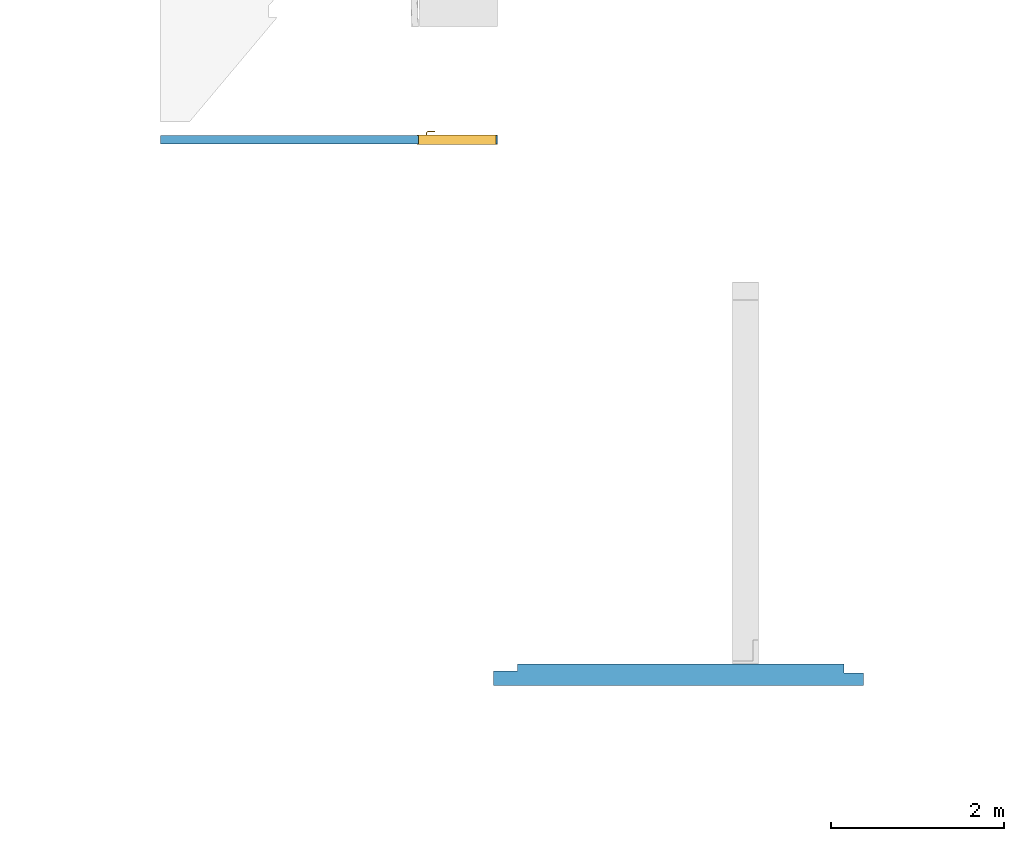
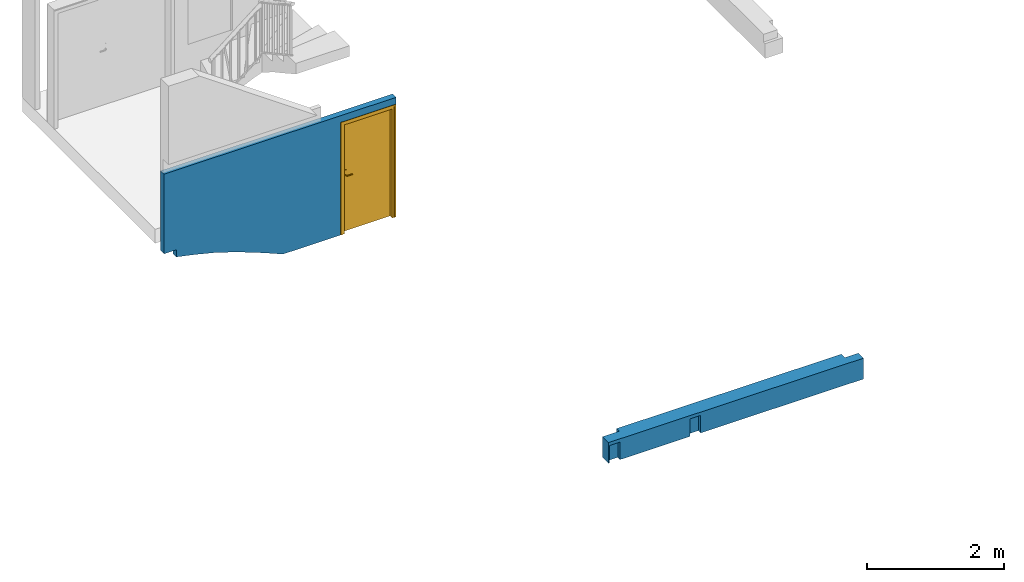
"""IFC4 building model written with IfcOpenShell, lengths in metres."""

from ifc_helpers import new_model, entity, si_unit, converted_unit, derived_unit, direction, frame, origin, place, context, subcontext, project, spatial, indexed_curve, outline, extrude, polygons, source, transform, mapped, material, material_list, layer, layer_set, constituent, constituent_set, type_object, type_shapes, element, fill, save


model = new_model("IFC4")

# Units and contexts
model_context = context("Model", 3, precision=1e-05, world=origin(), true_north=direction((6.12303176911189e-17, 1.0)))
body_context = subcontext(model_context, "Body", "Model", "MODEL_VIEW")
ifc_project = project(units=[si_unit("LENGTHUNIT", "METRE"), si_unit("AREAUNIT", "SQUARE_METRE"), si_unit("VOLUMEUNIT", "CUBIC_METRE"), converted_unit("PLANEANGLEUNIT", "DEGREE", entity("IfcRatioMeasure", 0.0174532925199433), si_unit("PLANEANGLEUNIT", "RADIAN"), dimensions=[0, 0, 0, 0, 0, 0, 0]), si_unit("MASSUNIT", "GRAM", prefix="KILO"), derived_unit("MASSDENSITYUNIT", [(si_unit("MASSUNIT", "GRAM", prefix="KILO"), 1), (si_unit("LENGTHUNIT", "METRE"), -3)]), derived_unit("MOMENTOFINERTIAUNIT", [(si_unit("LENGTHUNIT", "METRE"), 4)]), si_unit("TIMEUNIT", "SECOND"), si_unit("FREQUENCYUNIT", "HERTZ"), si_unit("THERMODYNAMICTEMPERATUREUNIT", "DEGREE_CELSIUS"), derived_unit("THERMALTRANSMITTANCEUNIT", [(si_unit("MASSUNIT", "GRAM", prefix="KILO"), 1), (si_unit("THERMODYNAMICTEMPERATUREUNIT", "KELVIN"), -1), (si_unit("TIMEUNIT", "SECOND"), -3)]), derived_unit("VOLUMETRICFLOWRATEUNIT", [(si_unit("LENGTHUNIT", "METRE"), 3), (si_unit("TIMEUNIT", "SECOND"), -1)]), si_unit("ELECTRICCURRENTUNIT", "AMPERE"), si_unit("ELECTRICVOLTAGEUNIT", "VOLT"), si_unit("POWERUNIT", "WATT"), si_unit("FORCEUNIT", "NEWTON", prefix="KILO"), si_unit("ILLUMINANCEUNIT", "LUX"), si_unit("LUMINOUSFLUXUNIT", "LUMEN"), si_unit("LUMINOUSINTENSITYUNIT", "CANDELA"), derived_unit("USERDEFINED", [(si_unit("MASSUNIT", "GRAM", prefix="KILO"), -1), (si_unit("LENGTHUNIT", "METRE"), -2), (si_unit("TIMEUNIT", "SECOND"), 3), (si_unit("LUMINOUSFLUXUNIT", "LUMEN"), 1)]), derived_unit("LINEARVELOCITYUNIT", [(si_unit("LENGTHUNIT", "METRE"), 1), (si_unit("TIMEUNIT", "SECOND"), -1)]), si_unit("PRESSUREUNIT", "PASCAL"), derived_unit("USERDEFINED", [(si_unit("LENGTHUNIT", "METRE"), -2), (si_unit("MASSUNIT", "GRAM", prefix="KILO"), 1), (si_unit("TIMEUNIT", "SECOND"), -2)]), derived_unit("LINEARFORCEUNIT", [(si_unit("MASSUNIT", "GRAM", prefix="KILO"), 1), (si_unit("LENGTHUNIT", "METRE"), 1), (si_unit("TIMEUNIT", "SECOND"), -2), (si_unit("LENGTHUNIT", "METRE"), -1)]), derived_unit("PLANARFORCEUNIT", [(si_unit("MASSUNIT", "GRAM", prefix="KILO"), 1), (si_unit("LENGTHUNIT", "METRE"), 1), (si_unit("TIMEUNIT", "SECOND"), -2), (si_unit("LENGTHUNIT", "METRE"), -2)])], contexts=[model_context])

# Site, building, storey
site_placement = place(None, origin())
site = spatial("IfcSite", under=ifc_project, at=site_placement, Name="Default", CompositionType="ELEMENT")
building_placement = place(site_placement, origin())
building = spatial("IfcBuilding", under=site, at=building_placement, Name="HOTEL CONSULAIRE BOULOGNE SUR MER", CompositionType="ELEMENT")
storey_1_placement = place(building_placement, frame((0.0, 0.0, -1.40419978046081)))
storey_1 = spatial("IfcBuildingStorey", under=building, at=storey_1_placement, Name="Demi-niveau", CompositionType="ELEMENT", Elevation=-1.40419978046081)

# Beam
ifc_material_1 = material(Name="Béton - Béton coulé sur place", Category="Béton")
beam_type = type_object("IfcBeamType", Name="Poutre rectangulaire - Béton:250X370", PredefinedType="BEAM", material=ifc_material_1)
shared_shape_1 = source(origin(), body_context, "Body", "Tessellation", [
    polygons([(2.70716782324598e-16, 1.29944055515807e-14, 5.41433564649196e-16), (2.70716782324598e-16, 1.29944055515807e-14, 0.37), (5.41433564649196e-16, 0.0700000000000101, 0.37), (8.12150346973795e-16, 0.172004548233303, 0.37), (8.12150346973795e-16, 0.172004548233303, 0.131000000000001), (8.12150346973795e-16, 0.172004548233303, 5.41433564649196e-16), (0.0125321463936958, 1.29944055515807e-14, 5.41433564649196e-16), (0.0125321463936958, 1.29944055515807e-14, 0.311000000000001), (0.192532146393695, 1.29944055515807e-14, 0.311000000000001), (0.192532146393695, 1.29944055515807e-14, 5.41433564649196e-16), (1.36753214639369, 8.66293703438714e-15, 5.41433564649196e-16), (1.36753214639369, 8.66293703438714e-15, 0.311000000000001), (1.54753214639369, 8.66293703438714e-15, 0.311), (1.54753214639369, 8.66293703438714e-15, 5.41433564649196e-16), (4.28086785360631, 0.0, 5.41433564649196e-16), (4.28086785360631, 0.0, 0.37), (4.05586785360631, 0.147004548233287, 5.41433564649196e-16), (4.28086785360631, 0.147004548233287, 5.41433564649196e-16), (1.54753214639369, 0.0668499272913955, 5.41433564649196e-16), (1.36753214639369, 0.0668499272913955, 5.41433564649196e-16), (0.192532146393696, 0.0668499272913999, 5.41433564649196e-16), (0.0125321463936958, 0.0668499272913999, 5.41433564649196e-16), (0.280867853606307, 0.172004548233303, 5.41433564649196e-16), (0.280867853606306, 0.250000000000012, 5.41433564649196e-16), (4.05586785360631, 0.249999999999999, 5.41433564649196e-16), (4.05586785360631, 0.249999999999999, 0.37), (0.280867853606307, 0.250000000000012, 0.37), (4.01586785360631, 0.249999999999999, 0.37), (4.28086785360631, 0.147004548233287, 0.37), (4.05586785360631, 0.147004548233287, 0.37), (0.280867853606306, 0.172004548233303, 0.37), (0.192532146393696, 0.0668499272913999, 0.311000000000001), (0.0125321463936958, 0.0668499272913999, 0.311000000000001), (1.54753214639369, 0.0668499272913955, 0.311000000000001), (1.36753214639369, 0.0668499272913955, 0.311000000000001)], [[[6, 1, 2, 3, 4, 5]], [[24, 23, 31, 27]], [[9, 32, 21, 10]], [[13, 34, 19, 14]], [[13, 14, 15, 16, 2, 1, 7, 8, 9, 10, 11, 12]], [[22, 21, 32, 33]], [[20, 19, 34, 35]], [[17, 18, 15, 14, 19, 20, 11, 10, 21, 22, 7, 1, 6, 23, 24, 25]], [[8, 33, 32, 9]], [[12, 35, 34, 13]], [[26, 25, 24, 27, 28]], [[17, 30, 29, 18]], [[5, 4, 31, 23, 6]], [[26, 28, 27, 31, 4, 3, 2, 16, 29, 30]], [[25, 26, 30, 17]], [[7, 22, 33, 8]], [[11, 20, 35, 12]], [[16, 15, 18, 29]]], closed=True),
])
type_shapes(beam_type, [shared_shape_1])
beam_placement = place(storey_1_placement, frame((-1.30969108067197, -20.1649143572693, -1.55023690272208)))
element("IfcBeam", 1, at=beam_placement, inside=storey_1, type_object=beam_type, material=ifc_material_1, Name="Poutre rectangulaire - Béton:250X370", ObjectType="Poutre rectangulaire - Béton:250X370", PredefinedType="BEAM", context=body_context, shape_type="MappedRepresentation", body=[
    mapped(shared_shape_1, transform((0.0, 0.0, 0.0), scale=1.0)),
])

# Wall, opening
ifc_material_2 = material(Name="Mur par défaut", Category="Divers")
ifc_layer = layer(ifc_material_2, 0.1, Name="Mur par défaut", Category="Divers")
ifc_layer_set = layer_set([ifc_layer], Name="Mur de base:Générique - Int. 100 mm")
wall_type = type_object("IfcWallType", Name="Mur de base:Générique - Int. 100 mm", PredefinedType="NOTDEFINED", material=ifc_layer_set)
wall_placement = place(storey_1_placement, frame((-5.1597731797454, -13.8483331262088, -0.986841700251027)))
wall = element("IfcWall", 2, at=wall_placement, inside=storey_1, type_object=wall_type, material=ifc_layer_set, Name="Mur de base:Générique - Int. 100 mm", ObjectType="Mur de base:Générique - Int. 100 mm", PredefinedType="NOTDEFINED", context=body_context, shape_type="Tessellation", body=[
    polygons([(3.90034967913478, 0.0499999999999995, 0.00159527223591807), (3.90034967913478, -0.0499999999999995, 0.00159527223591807), (3.88134967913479, -0.0499999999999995, 0.00159527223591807), (3.88134967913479, 0.0499999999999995, 0.00159527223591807), (3.90034967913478, -0.0499999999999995, 2.12104148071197), (2.80482516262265, -0.0499999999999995, 2.12104148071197), (2.73482516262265, -0.0499999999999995, 2.12104148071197), (-1.19722993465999e-16, -0.0499999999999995, 2.12104148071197), (-1.19722993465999e-16, -0.0499999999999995, 0.705087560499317), (0.207129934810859, -0.0499999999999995, 0.705087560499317), (0.207129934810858, -0.0499999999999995, 0.57906521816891), (0.527494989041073, -0.0499999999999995, 0.510298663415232), (0.845503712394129, -0.0499999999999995, 0.431348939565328), (1.07478742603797, -0.0499999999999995, 0.358959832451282), (1.30215540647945, -0.0499999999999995, 0.280761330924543), (1.48847332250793, -0.0499999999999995, 0.21096260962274), (1.67364308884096, -0.0499999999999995, 0.13817260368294), (1.8359789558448, -0.0499999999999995, 0.0703565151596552), (1.99791674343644, -0.0499999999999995, 0.0015952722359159), (2.98134967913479, -0.0499999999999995, 0.00159527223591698), (2.98134967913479, -0.0499999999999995, 1.98659527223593), (3.88134967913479, -0.0499999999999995, 1.98659527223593), (-3.99350005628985e-16, 0.0499999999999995, 2.12104148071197), (3.90034967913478, 0.0499999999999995, 2.12104148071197), (3.88134967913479, 0.0499999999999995, 1.98659527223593), (2.98134967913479, 0.0499999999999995, 1.98659527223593), (2.98134967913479, 0.0499999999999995, 0.00159527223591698), (1.99791674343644, 0.0499999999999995, 0.0015952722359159), (1.8359789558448, 0.0499999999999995, 0.0703565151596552), (1.673643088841, 0.0499999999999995, 0.13817260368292), (1.48847332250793, 0.0499999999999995, 0.21096260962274), (1.30215540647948, 0.0499999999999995, 0.280761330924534), (1.07478742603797, 0.0499999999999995, 0.358959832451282), (0.845503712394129, 0.0499999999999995, 0.431348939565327), (0.527494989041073, 0.0499999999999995, 0.510298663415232), (0.207129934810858, 0.0499999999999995, 0.57906521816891), (0.207129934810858, 0.0499999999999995, 0.705087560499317), (-3.99350005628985e-16, 0.0499999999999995, 0.705087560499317), (0.207129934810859, -0.0477873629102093, 0.705087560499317), (0.207129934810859, -0.0477873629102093, 0.57906521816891)], [[[2, 3, 4, 1]], [[26, 25, 22, 21]], [[10, 9, 38, 37, 39]], [[20, 19, 28, 27]], [[8, 9, 10, 11, 12, 13, 14, 15, 16, 17, 18, 19, 20, 21, 22, 3, 2, 5, 6, 7]], [[25, 26, 27, 28, 29, 30, 31, 32, 33, 34, 35, 36, 37, 38, 23, 24, 1, 4]], [[5, 2, 1, 24]], [[26, 21, 20, 27]], [[6, 5, 24, 23, 8, 7]], [[9, 8, 23, 38]], [[25, 4, 3, 22]], [[11, 10, 39, 37, 36, 40]], [[35, 12, 11, 40, 36]], [[34, 13, 12, 35]], [[34, 33, 14, 13]], [[32, 15, 14, 33]], [[32, 31, 16, 15]], [[30, 17, 16, 31]], [[30, 29, 18, 17]], [[28, 19, 18, 29]]], closed=True),
])
opening_placement = place(wall_placement, frame((2.98134967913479, -0.0500000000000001, 0.00159527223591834)))
opening = element("IfcOpeningElement", 3, at=opening_placement, cuts=wall, Name="Int. Simple:PP (0.83m x 1.95:1", ObjectType="Opening", PredefinedType="OPENING", context=body_context, shape_type="SweptSolid", body=[
    extrude(outline(indexed_curve([(0.0, 0.899999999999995), (0.0, -5.06241910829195e-30), (1.98500000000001, -5.06241910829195e-30), (1.98500000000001, 0.899999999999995), (0.0, 0.899999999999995)], self_intersect=False)), frame((0.0, 0.0, 0.0), z_axis=(0.0, 1.0, 0.0), x_axis=(0.0, 0.0, 1.0)), (0.0, 0.0, 1.0), 0.1),
])

# Storey
storey_2_placement = place(building_placement, frame((0.0, 0.0, -2.70343668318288)))
storey_2 = spatial("IfcBuildingStorey", under=building, at=storey_2_placement, Name="SS1", CompositionType="ELEMENT", Elevation=-2.70343668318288)

# Door
ifc_material_3 = material(Name="Finition Peinture - Blanc satiné", Category="Peinture")
ifc_constituent_1 = constituent(ifc_material_3, Name="Finition Peinture - Blanc satiné", Category="Matériaux")
ifc_material_4 = material(Name="Bois - Panneau de porte", Category="Bois")
ifc_constituent_2 = constituent(ifc_material_4, Name="Bois - Panneau de porte", Category="Matériaux")
ifc_material_5 = material(Name="Bois - Cadre de porte", Category="Bois")
ifc_constituent_3 = constituent(ifc_material_5, Name="Bois - Cadre de porte", Category="Matériaux")
ifc_constituent_set = constituent_set(constituents=[ifc_constituent_1, ifc_constituent_2, ifc_constituent_3], Name="MaterialConstituentSet")
ifc_material_list = material_list([ifc_material_4, ifc_material_5, ifc_material_5, ifc_material_3])
door_type = type_object("IfcDoorType", Name="Int. Simple:PP (0.83m x 1.95", OperationType="NOTDEFINED", PredefinedType="DOOR", material=ifc_material_list)
shared_shape_2 = source(origin(), body_context, "Body", "Tessellation", [
    polygons([(0.895000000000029, -0.00500000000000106, 0.870000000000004), (0.895000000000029, -0.00500000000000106, 1.08), (0.88535276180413, -0.00500000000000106, 1.08399601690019), (0.875000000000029, -0.00500000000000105, 1.08535898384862), (0.864647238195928, -0.00500000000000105, 1.08399601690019), (0.85500000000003, -0.00500000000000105, 1.08), (0.855000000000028, -0.00500000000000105, 0.870000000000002), (0.864647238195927, -0.00500000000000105, 0.866003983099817), (0.875000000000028, -0.00500000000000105, 0.86464101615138), (0.885352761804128, -0.00500000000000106, 0.866003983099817), (0.895000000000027, -1.06594733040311e-15, 0.870000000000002), (0.885352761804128, -1.06594733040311e-15, 0.866003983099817), (0.875000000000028, -1.05748743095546e-15, 0.86464101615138), (0.864647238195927, -1.05748743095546e-15, 0.866003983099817), (0.855000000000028, -1.04902753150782e-15, 0.870000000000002), (0.855000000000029, -1.04902753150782e-15, 1.08), (0.864647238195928, -1.05748743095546e-15, 1.08399601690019), (0.875000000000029, -1.05748743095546e-15, 1.08535898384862), (0.88535276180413, -1.06594733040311e-15, 1.08399601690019), (0.895000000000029, -1.06594733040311e-15, 1.08)], [[[1, 2, 3, 4, 5, 6, 7, 8, 9, 10]], [[20, 11, 12, 13, 14, 15, 16, 17, 18, 19]], [[10, 12, 11, 1]], [[9, 13, 12, 10]], [[8, 14, 13, 9]], [[8, 7, 15, 14]], [[15, 7, 6, 16]], [[5, 17, 16, 6]], [[4, 18, 17, 5]], [[3, 19, 18, 4]], [[3, 2, 20, 19]], [[11, 20, 2, 1]]], closed=True),
    polygons([(0.85500000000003, 0.0399999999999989, 1.08), (0.855000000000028, 0.0399999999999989, 0.870000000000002), (0.864647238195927, 0.0399999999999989, 0.866003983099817), (0.875000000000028, 0.0399999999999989, 0.86464101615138), (0.885352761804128, 0.0399999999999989, 0.866003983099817), (0.895000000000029, 0.0399999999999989, 0.870000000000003), (0.895000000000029, 0.0399999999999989, 1.08), (0.88535276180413, 0.0399999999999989, 1.08399601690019), (0.875000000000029, 0.0399999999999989, 1.08535898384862), (0.864647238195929, 0.0399999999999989, 1.08399601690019), (0.85500000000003, 0.0449999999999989, 1.08), (0.864647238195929, 0.0449999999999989, 1.08399601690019), (0.875000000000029, 0.0449999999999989, 1.08535898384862), (0.88535276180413, 0.0449999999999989, 1.08399601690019), (0.895000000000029, 0.0449999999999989, 1.08), (0.895000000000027, 0.0449999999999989, 0.870000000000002), (0.885352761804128, 0.0449999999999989, 0.866003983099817), (0.875000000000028, 0.0449999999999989, 0.86464101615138), (0.864647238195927, 0.0449999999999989, 0.866003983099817), (0.855000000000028, 0.0449999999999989, 0.870000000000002)], [[[6, 7, 8, 9, 10, 1, 2, 3, 4, 5]], [[13, 14, 15, 16, 17, 18, 19, 20, 11, 12]], [[10, 12, 11, 1]], [[9, 13, 12, 10]], [[8, 14, 13, 9]], [[8, 7, 15, 14]], [[16, 15, 7, 6]], [[5, 17, 16, 6]], [[4, 18, 17, 5]], [[3, 19, 18, 4]], [[3, 2, 20, 19]], [[20, 2, 1, 11]]], closed=True),
    polygons([(0.88100000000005, -0.00500000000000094, 1.00699999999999), (0.88100000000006, -0.00500000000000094, 0.992999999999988), (0.877025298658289, -0.00500000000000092, 0.99221955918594), (0.87297470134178, -0.0050000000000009, 0.992219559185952), (0.869000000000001, -0.00500000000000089, 0.993000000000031), (0.869000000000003, -0.00500000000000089, 1.007), (0.872974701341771, -0.0050000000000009, 1.00778044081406), (0.877025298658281, -0.00500000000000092, 1.00778044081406), (0.869000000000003, -0.0276803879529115, 1.007), (0.872974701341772, -0.0293267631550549, 1.00778044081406), (0.877025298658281, -0.0310045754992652, 1.00778044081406), (0.881000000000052, -0.0326509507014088, 1.007), (0.869000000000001, -0.0276803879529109, 0.993000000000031), (0.88100000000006, -0.0326509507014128, 0.992999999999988), (0.877025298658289, -0.0310045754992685, 0.99221955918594), (0.87297470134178, -0.0293267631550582, 0.992219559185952), (0.857652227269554, -0.0390281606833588, 1.007), (0.859298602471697, -0.0430028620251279, 1.00778044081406), (0.860976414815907, -0.0470534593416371, 1.00778044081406), (0.862622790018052, -0.051028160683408, 1.007), (0.857652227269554, -0.0390281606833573, 0.993000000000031), (0.862622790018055, -0.0510281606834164, 0.992999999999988), (0.860976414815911, -0.0470534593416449, 0.99221955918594), (0.859298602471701, -0.0430028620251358, 0.992219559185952), (0.774981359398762, -0.0510281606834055, 1.007), (0.774981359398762, -0.0470534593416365, 1.00778044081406), (0.774981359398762, -0.0430028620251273, 1.00778044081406), (0.774981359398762, -0.0390281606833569, 1.00699999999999), (0.774981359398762, -0.0390281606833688, 0.993000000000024), (0.774981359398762, -0.0430028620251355, 0.992219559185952), (0.774981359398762, -0.0470534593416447, 0.99221955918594), (0.774981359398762, -0.0510281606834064, 0.992999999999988), (0.822692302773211, -0.051028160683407, 1.007), (0.817139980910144, -0.045028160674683, 1.0078786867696), (0.816316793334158, -0.039028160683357, 1.007), (0.822692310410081, -0.0510281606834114, 0.992999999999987), (0.817139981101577, -0.0450281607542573, 0.992121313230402), (0.81631679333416, -0.0390281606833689, 0.993000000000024)], [[[7, 8, 1, 2, 3, 4, 5, 6]], [[17, 21, 38, 29, 28, 35]], [[1, 8, 11, 12]], [[8, 7, 10, 18, 19, 11]], [[7, 6, 9, 10]], [[13, 9, 6, 5]], [[25, 26, 27, 28, 29, 30, 31, 32]], [[4, 16, 13, 5]], [[4, 3, 15, 23, 24, 16]], [[2, 14, 15, 3]], [[12, 14, 2, 1]], [[12, 11, 19, 20]], [[10, 9, 17, 18]], [[21, 17, 9, 13]], [[13, 16, 24, 21]], [[15, 14, 22, 23]], [[20, 22, 14, 12]], [[34, 26, 33]], [[33, 26, 25]], [[33, 20, 19]], [[18, 35, 34]], [[35, 18, 17]], [[28, 27, 35]], [[34, 27, 26]], [[34, 35, 27]], [[34, 33, 19]], [[18, 34, 19]], [[37, 30, 38]], [[31, 37, 36]], [[24, 38, 21]], [[30, 29, 38]], [[31, 36, 32]], [[36, 23, 22]], [[37, 23, 36]], [[37, 24, 23]], [[37, 38, 24]], [[30, 37, 31]], [[22, 20, 33, 25, 32, 36]]], closed=True),
    polygons([(0.86900000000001, 0.0449999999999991, 0.993000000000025), (0.872974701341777, 0.0449999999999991, 0.992219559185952), (0.877025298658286, 0.0449999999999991, 0.99221955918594), (0.881000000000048, 0.044999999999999, 0.992999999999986), (0.881000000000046, 0.044999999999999, 1.007), (0.877025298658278, 0.0449999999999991, 1.00778044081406), (0.872974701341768, 0.0449999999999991, 1.00778044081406), (0.868999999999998, 0.0449999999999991, 1.007), (0.868999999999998, 0.067485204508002, 1.007), (0.868999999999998, 0.0674852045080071, 0.993000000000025), (0.881000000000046, 0.0724557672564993, 1.007), (0.877025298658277, 0.070809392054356, 1.00778044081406), (0.872974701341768, 0.0691315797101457, 1.00778044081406), (0.881000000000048, 0.0724557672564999, 0.992999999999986), (0.872974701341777, 0.0691315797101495, 0.992219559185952), (0.877025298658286, 0.0708093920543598, 0.99221955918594), (0.85751471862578, 0.0789704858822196, 1.007), (0.857514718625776, 0.0789704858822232, 0.993000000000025), (0.862485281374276, 0.0909704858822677, 1.007), (0.860838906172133, 0.0869957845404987, 1.00778044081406), (0.859161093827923, 0.0829451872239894, 1.00778044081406), (0.862485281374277, 0.0909704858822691, 0.992999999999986), (0.859161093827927, 0.0829451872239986, 0.992219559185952), (0.860838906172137, 0.0869957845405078, 0.99221955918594), (0.774954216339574, 0.0789704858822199, 0.993000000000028), (0.774954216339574, 0.0789704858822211, 1.007), (0.774954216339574, 0.0829451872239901, 1.00778044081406), (0.774954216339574, 0.0869957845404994, 1.00778044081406), (0.774954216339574, 0.0909704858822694, 1.007), (0.774954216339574, 0.0909704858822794, 0.992999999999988), (0.774954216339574, 0.086995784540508, 0.99221955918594), (0.774954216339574, 0.0829451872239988, 0.992219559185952), (0.82255479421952, 0.0909704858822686, 1.007), (0.817057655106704, 0.0849704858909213, 1.0078786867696), (0.816234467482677, 0.0789704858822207, 1.007), (0.822554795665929, 0.0909704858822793, 0.992999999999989), (0.817057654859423, 0.0849704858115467, 0.992121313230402), (0.816234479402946, 0.0789704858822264, 0.993000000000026)], [[[2, 3, 4, 5, 6, 7, 8, 1]], [[18, 17, 35, 26, 25, 38]], [[9, 10, 1, 8]], [[27, 28, 29, 30, 31, 32, 25, 26]], [[7, 13, 9, 8]], [[7, 6, 12, 20, 21, 13]], [[5, 11, 12, 6]], [[11, 5, 4, 14]], [[4, 3, 16, 14]], [[3, 2, 15, 23, 24, 16]], [[2, 1, 10, 15]], [[17, 18, 10, 9]], [[9, 13, 21, 17]], [[11, 19, 20, 12]], [[22, 19, 11, 14]], [[14, 16, 24, 22]], [[15, 10, 18, 23]], [[34, 27, 35]], [[28, 34, 33]], [[21, 35, 17]], [[27, 26, 35]], [[28, 33, 29]], [[33, 20, 19]], [[34, 20, 33]], [[34, 21, 20]], [[34, 35, 21]], [[27, 34, 28]], [[19, 22, 36, 30, 29, 33]], [[37, 31, 36]], [[36, 31, 30]], [[36, 22, 24]], [[23, 38, 37]], [[38, 23, 18]], [[25, 32, 38]], [[37, 32, 31]], [[37, 38, 32]], [[37, 36, 24]], [[23, 37, 24]]], closed=True),
    polygons([(0.935000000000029, 0.0400000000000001, 1.95), (0.935000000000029, 0.0400000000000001, 0.0), (0.105000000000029, 0.0400000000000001, 0.0), (0.105000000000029, 0.0400000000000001, 1.95), (0.935000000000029, 6.76791955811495e-17, 1.95), (0.105000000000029, 6.76791955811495e-17, 1.95), (0.105000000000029, 6.76791955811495e-17, 0.0), (0.935000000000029, 6.76791955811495e-17, 0.0)], [[[4, 1, 2, 3]], [[5, 6, 7, 8]], [[6, 5, 1, 4]], [[6, 4, 3, 7]], [[8, 7, 3, 2]], [[8, 2, 1, 5]]], closed=True),
    polygons([(0.970000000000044, 0.0, 0.0), (0.935000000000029, 0.0, 0.0), (0.935000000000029, 0.040000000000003, 0.0), (0.920000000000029, 0.040000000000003, 0.0), (0.920000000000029, 0.100000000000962, 0.0), (0.970000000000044, 0.100000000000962, 0.0), (0.970000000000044, 0.100000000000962, 1.98500000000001), (0.970000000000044, 0.0, 1.98500000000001), (0.920000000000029, 0.100000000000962, 1.935), (0.120000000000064, 0.100000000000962, 1.935), (0.120000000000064, 0.100000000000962, 0.0), (0.0700000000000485, 0.100000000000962, -4.03399441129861e-24), (0.0700000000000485, 0.100000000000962, 1.98500000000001), (0.920000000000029, 0.040000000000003, 1.935), (0.935000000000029, 0.040000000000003, 1.95), (0.105000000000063, 0.040000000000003, 1.95), (0.105000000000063, 0.040000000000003, -1.49059860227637e-24), (0.120000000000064, 0.040000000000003, -5.27442284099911e-24), (0.120000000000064, 0.040000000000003, 1.935), (0.935000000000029, 0.0, 1.95), (0.0700000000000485, 0.0, 1.98500000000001), (0.0700000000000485, 0.0, -2.27559306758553e-25), (0.105000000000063, 0.0, 1.71703235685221e-24), (0.105000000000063, 0.0, 1.95)], [[[5, 6, 1, 2, 3, 4]], [[17, 23, 22, 12, 11, 18]], [[19, 10, 9, 14]], [[24, 16, 15, 20]], [[7, 8, 1, 6]], [[18, 11, 10, 19]], [[17, 16, 24, 23]], [[9, 10, 11, 12, 13, 7, 6, 5]], [[14, 9, 5, 4]], [[15, 3, 2, 20]], [[12, 22, 21, 13]], [[19, 14, 4, 3, 15, 16, 17, 18]], [[24, 20, 2, 1, 8, 21, 22, 23]], [[21, 8, 7, 13]]], closed=True),
    polygons([(0.955000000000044, 0.100000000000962, 0.0), (0.955000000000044, 0.105000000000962, 0.0), (0.985000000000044, 0.105000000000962, 0.0), (0.985000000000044, 0.100000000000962, 0.0), (0.985000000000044, 0.100000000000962, 2.00000000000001), (0.0550000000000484, 0.100000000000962, 2.00000000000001), (0.0550000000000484, 0.100000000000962, -1.22863132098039e-25), (0.0850000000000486, 0.100000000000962, 1.49483005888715e-24), (0.0850000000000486, 0.100000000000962, 1.97000000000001), (0.955000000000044, 0.100000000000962, 1.97000000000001), (0.985000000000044, 0.105000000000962, 2.00000000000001), (0.955000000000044, 0.105000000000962, 1.97000000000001), (0.0850000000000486, 0.105000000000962, 1.97000000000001), (0.0850000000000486, 0.105000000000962, -8.06798529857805e-25), (0.0550000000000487, 0.105000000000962, -1.77495718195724e-24), (0.0550000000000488, 0.105000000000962, 2.00000000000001)], [[[2, 3, 4, 1]], [[8, 7, 15, 14]], [[9, 13, 12, 10]], [[9, 10, 1, 4, 5, 6, 7, 8]], [[11, 5, 4, 3]], [[8, 14, 13, 9]], [[12, 13, 14, 15, 16, 11, 3, 2]], [[10, 12, 2, 1]], [[7, 6, 16, 15]], [[6, 5, 11, 16]]], closed=True),
    polygons([(0.955000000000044, -0.005, 0.0), (0.955000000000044, 0.0, 0.0), (0.985000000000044, 0.0, 0.0), (0.985000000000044, -0.005, 0.0), (0.0850000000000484, -0.005, -1.35358391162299e-16), (0.0550000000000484, -0.005, -1.35358391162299e-16), (0.0550000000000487, 0.0, -1.35358391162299e-16), (0.0850000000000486, 0.0, -1.35358391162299e-16), (0.985000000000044, -0.005, 2.00000000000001), (0.0550000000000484, -0.005, 2.00000000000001), (0.0850000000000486, -0.005, 1.97000000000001), (0.955000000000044, -0.005, 1.97000000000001), (0.985000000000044, 0.0, 2.00000000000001), (0.955000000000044, 0.0, 1.97000000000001), (0.0850000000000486, 0.0, 1.97000000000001), (0.0550000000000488, 0.0, 2.00000000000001)], [[[2, 3, 4, 1]], [[5, 6, 7, 8]], [[15, 14, 12, 11]], [[11, 12, 1, 4, 9, 10, 6, 5]], [[9, 4, 3, 13]], [[5, 8, 15, 11]], [[14, 15, 8, 7, 16, 13, 3, 2]], [[12, 14, 2, 1]], [[7, 6, 10, 16]], [[10, 9, 13, 16]]], closed=True),
])
type_shapes(door_type, [shared_shape_2])
door_placement = place(opening_placement, frame((0.970000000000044, 0.0999999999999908, 0.0), z_axis=(0.0, 0.0, 1.0), x_axis=(-1.0, 0.0, 0.0)))
door = element("IfcDoor", 4, at=door_placement, inside=storey_2, type_object=door_type, material=ifc_constituent_set, Name="Int. Simple:PP (0.83m x 1.95", ObjectType="Int. Simple:PP (0.83m x 1.95", OperationType="NOTDEFINED", OverallHeight=1.98500000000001, OverallWidth=0.899999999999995, PredefinedType="DOOR", context=body_context, shape_type="MappedRepresentation", body=[
    mapped(shared_shape_2, transform((0.0, 0.0, 0.0), scale=1.0)),
])

fill(opening, door)

save(model, "model.ifc")
